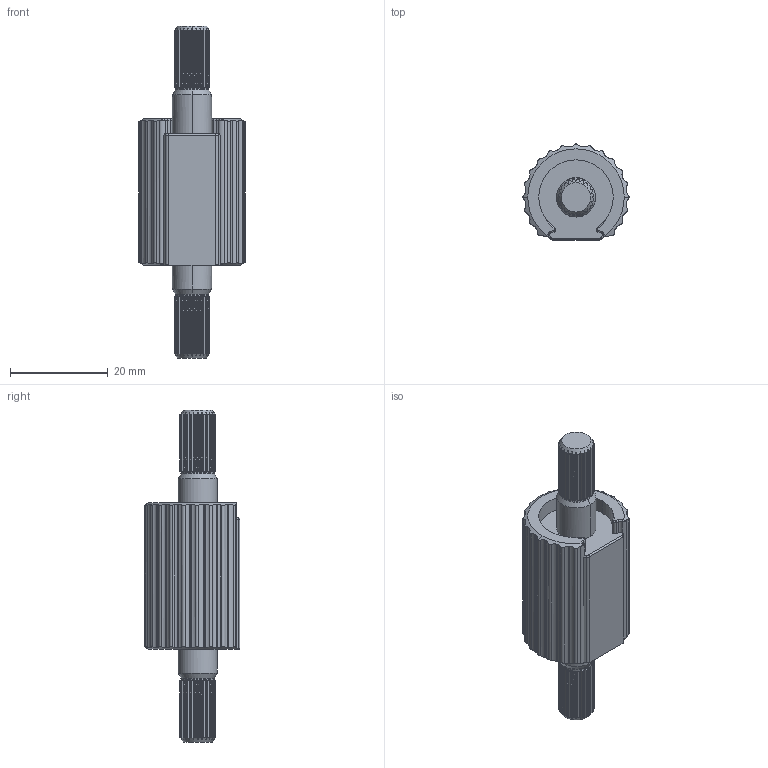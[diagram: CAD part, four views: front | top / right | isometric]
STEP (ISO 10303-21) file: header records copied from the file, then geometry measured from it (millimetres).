
FILE_DESCRIPTION (( 'STEP AP214' ), '1' );
FILE_NAME ('Reell TI-360-X.XX-05.STEP', '2019-10-16T16:03:25', ( '' ), ( '' ), 'SwSTEP 2.0', 'SolidWorks 2017', '' );
FILE_SCHEMA (( 'AUTOMOTIVE_DESIGN' ));
Length unit declared in the file: millimetre
Products named in the file (1): Reell TI-360-X.XX-05
Bounding box: 21.75 x 19.62 x 68 mm (x, y, z)
Volume: 11150 mm3; surface area: 4601.3 mm2
Topology: 1 solids, 1 shells, 634 faces, 1737 edges, 1105 vertices
Faces by surface type: cylinder 332, plane 156, torus 130, cone 16
Entity records: 22802 total; most frequent: CARTESIAN_POINT 7131, ORIENTED_EDGE 3474, DIRECTION 3174, EDGE_CURVE 1737, AXIS2_PLACEMENT_3D 1308, VERTEX_POINT 1105, CIRCLE 673, EDGE_LOOP 636
